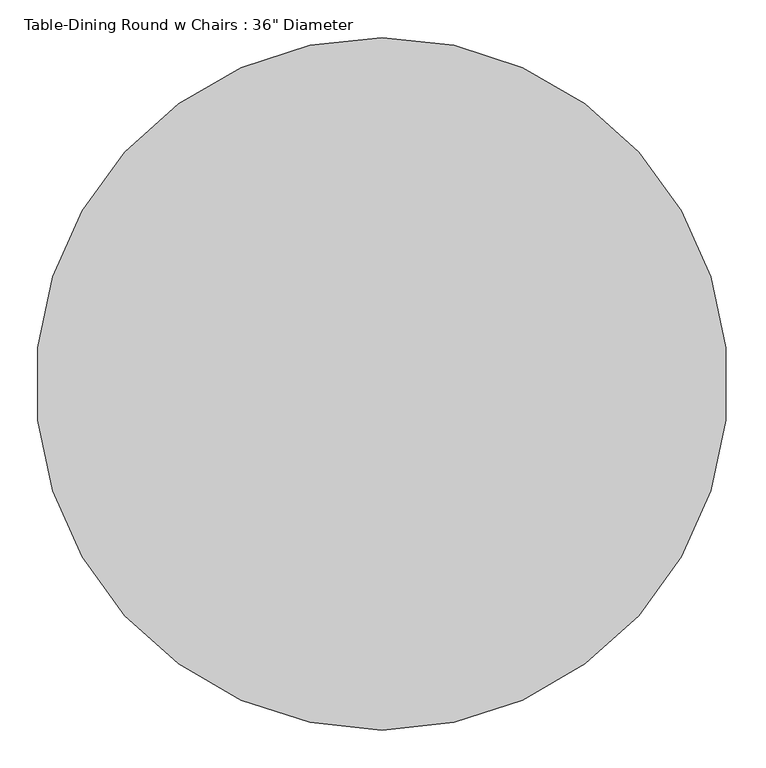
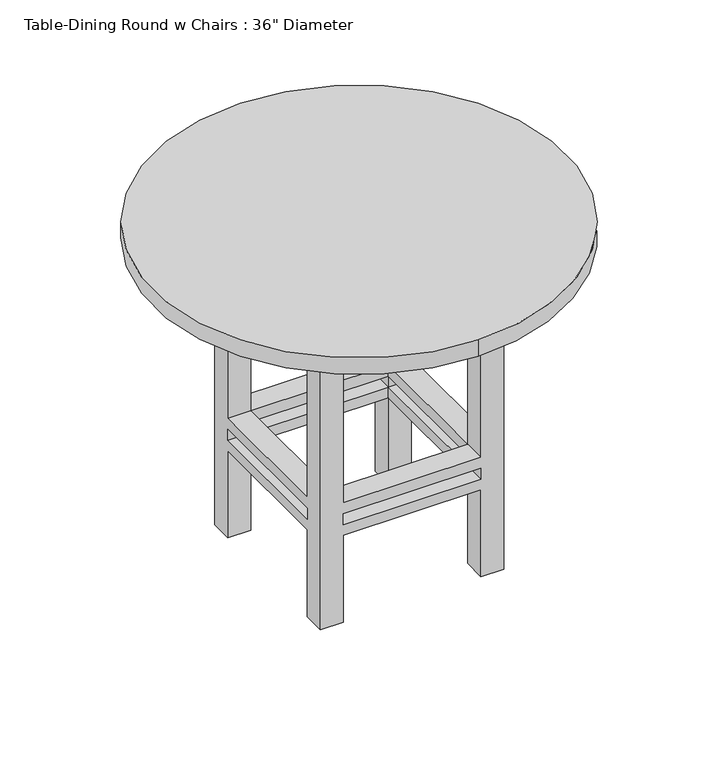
"""IFC4 building model written with IfcOpenShell, lengths in millimetres: furniture geometry."""

from ifc_helpers import new_model, si_unit, point, frame, frame_2d, origin, place, context, project, spatial, polyline, circle_curve, trimmed, segment, composite_curve, outline, extrude, faceted_brep, source, transform, mapped, element, save


def furniture_f004630c(model_context):
    return source(origin(), model_context, "Body", "SolidModel", [
        faceted_brep([(256.0819672, -32.4786885, 279.4), (256.0819672, -337.2786885, 279.4), (306.8819672, -337.2786885, 279.4), (306.8819672, -32.4786885, 279.4), (-48.7180328, -337.2786885, 279.4), (-48.7180328, -388.0786885, 279.4), (256.0819672, -388.0786885, 279.4), (-48.7180328, -32.4786885, 279.4), (-99.5180328, -32.4786885, 279.4), (-99.5180328, -337.2786885, 279.4), (256.0819672, 18.3213115, 279.4), (-48.7180328, 18.3213115, 279.4), (256.0819672, -32.4786885, 254.0), (-48.7180328, -32.4786885, 254.0), (-48.7180328, 18.3213115, 254.0), (256.0819672, 18.3213115, 254.0), (-48.7180328, -337.2786885, 254.0), (-99.5180328, -337.2786885, 254.0), (-99.5180328, -32.4786885, 254.0), (256.0819672, -337.2786885, 254.0), (256.0819672, -388.0786885, 254.0), (-48.7180328, -388.0786885, 254.0), (306.8819672, -32.4786885, 254.0), (306.8819672, -337.2786885, 254.0), (-99.5180328, 18.3213115, 647.7), (-48.7180328, 18.3213115, 647.7), (256.0819672, 18.3213115, 647.7), (306.8819672, 18.3213115, 647.7), (306.8819672, 18.3213115, 0.0), (256.0819672, 18.3213115, 0.0), (256.0819672, 18.3213115, 203.2), (-48.7180328, 18.3213115, 203.2), (-48.7180328, 18.3213115, 0.0), (-99.5180328, 18.3213115, 0.0), (-48.7180328, 18.3213115, 228.6), (256.0819672, 18.3213115, 228.6), (-99.5180328, -32.4786885, 647.7), (-99.5180328, -32.4786885, 0.0), (-99.5180328, -32.4786885, 203.2), (-99.5180328, -337.2786885, 203.2), (-99.5180328, -337.2786885, 0.0), (-99.5180328, -388.0786885, 0.0), (-99.5180328, -388.0786885, 647.7), (-99.5180328, -337.2786885, 647.7), (-99.5180328, -337.2786885, 228.6), (-99.5180328, -32.4786885, 228.6), (306.8819672, -388.0786885, 647.7), (256.0819672, -388.0786885, 647.7), (-48.7180328, -388.0786885, 647.7), (-48.7180328, -388.0786885, 0.0), (-48.7180328, -388.0786885, 203.2), (256.0819672, -388.0786885, 203.2), (256.0819672, -388.0786885, 0.0), (306.8819672, -388.0786885, 0.0), (256.0819672, -388.0786885, 228.6), (-48.7180328, -388.0786885, 228.6), (306.8819672, -32.4786885, 647.7), (306.8819672, -337.2786885, 647.7), (306.8819672, -337.2786885, 0.0), (306.8819672, -337.2786885, 203.2), (306.8819672, -32.4786885, 203.2), (306.8819672, -32.4786885, 0.0), (306.8819672, -32.4786885, 228.6), (306.8819672, -337.2786885, 228.6), (-48.7180328, -32.4786885, 647.7), (256.0819672, -32.4786885, 647.7), (256.0819672, -337.2786885, 647.7), (-48.7180328, -337.2786885, 647.7), (-48.7180328, -32.4786885, 0.0), (256.0819672, -32.4786885, 0.0), (256.0819672, -337.2786885, 0.0), (-48.7180328, -337.2786885, 0.0), (-48.7180328, -32.4786885, 203.2), (-48.7180328, -32.4786885, 228.6), (256.0819672, -32.4786885, 203.2), (256.0819672, -32.4786885, 228.6), (256.0819672, -337.2786885, 203.2), (256.0819672, -337.2786885, 228.6), (-48.7180328, -337.2786885, 203.2), (-48.7180328, -337.2786885, 228.6)], [[[0, 1, 2, 3]], [[1, 4, 5, 6]], [[4, 7, 8, 9]], [[7, 0, 10, 11]], [[12, 13, 14, 15]], [[13, 16, 17, 18]], [[16, 19, 20, 21]], [[19, 12, 22, 23]], [[24, 25, 11, 10, 26, 27, 28, 29, 30, 31, 32, 33], [14, 34, 35, 15]], [[36, 24, 33, 37, 38, 39, 40, 41, 42, 43, 9, 8], [17, 44, 45, 18]], [[46, 47, 6, 5, 48, 42, 41, 49, 50, 51, 52, 53], [20, 54, 55, 21]], [[28, 27, 56, 3, 2, 57, 46, 53, 58, 59, 60, 61], [22, 62, 63, 23]], [[1, 0, 12, 19]], [[4, 1, 19, 16]], [[7, 4, 16, 13]], [[0, 7, 13, 12]], [[25, 24, 36, 64]], [[26, 65, 56, 27]], [[47, 46, 57, 66]], [[48, 67, 43, 42]], [[32, 68, 37, 33]], [[29, 28, 61, 69]], [[52, 70, 58, 53]], [[49, 41, 40, 71]], [[64, 36, 8, 7]], [[37, 68, 72, 38]], [[13, 18, 45, 73]], [[25, 64, 7, 11]], [[68, 32, 31, 72]], [[14, 13, 73, 34]], [[65, 26, 10, 0]], [[29, 69, 74, 30]], [[12, 15, 35, 75]], [[56, 65, 0, 3]], [[69, 61, 60, 74]], [[22, 12, 75, 62]], [[66, 57, 2, 1]], [[58, 70, 76, 59]], [[19, 23, 63, 77]], [[47, 66, 1, 6]], [[70, 52, 51, 76]], [[20, 19, 77, 54]], [[67, 48, 5, 4]], [[49, 71, 78, 50]], [[16, 21, 55, 79]], [[43, 67, 4, 9]], [[71, 40, 39, 78]], [[17, 16, 79, 44]], [[75, 77, 63, 62]], [[77, 79, 55, 54]], [[79, 73, 45, 44]], [[73, 75, 35, 34]], [[74, 72, 31, 30]], [[72, 78, 39, 38]], [[78, 76, 51, 50]], [[76, 74, 60, 59]], [[77, 75, 74, 76]], [[79, 77, 76, 78]], [[73, 79, 78, 72]], [[75, 73, 72, 74]]]),
        extrude(outline(polyline([(332.2819672, 43.7213115), (332.2819672, -413.4786885), (-124.9180328, -413.4786885), (-124.9180328, 43.7213115), (332.2819672, 43.7213115)]), holes=[polyline([(306.8819672, 18.3213115), (-99.5180328, 18.3213115), (-99.5180328, -388.0786885), (306.8819672, -388.0786885), (306.8819672, 18.3213115)])]), frame((0.0, 0.0, 647.7), z_axis=(0.0, 0.0, 1.0), x_axis=(1.0, 0.0, 0.0)), (0.0, 0.0, 1.0), 76.2),
        extrude(outline(composite_curve([segment(trimmed(circle_curve(frame_2d((103.6819672, -184.8786885)), 457.2), [point((103.6819672, -642.0786885))], [point((103.6819672, 272.3213115))], False, "CARTESIAN"), True, "CONTINUOUS"), segment(trimmed(circle_curve(frame_2d((103.6819672, -184.8786885)), 457.2), [point((103.6819672, 272.3213115))], [point((103.6819672, -642.0786885))], False, "CARTESIAN"), True, "CONTINUOUS")], self_intersect=False)), frame((0.0, 0.0, 723.9), z_axis=(0.0, 0.0, 1.0), x_axis=(1.0, 0.0, 0.0)), (0.0, 0.0, 1.0), 38.1),
    ])


if __name__ == "__main__":
    model = new_model("IFC4")
    model_context = context("Model", 3, world=origin())
    ifc_project = project(units=[si_unit("LENGTHUNIT", "METRE", prefix="MILLI")], contexts=[model_context])
    site = spatial("IfcSite", under=ifc_project)
    building = spatial("IfcBuilding", under=site)
    placement = place(None, origin())
    furniture_shape = furniture_f004630c(model_context)
    element("IfcFurniture", 1, ObjectType="Table-Dining Round w Chairs : 36\" Diameter", at=placement, inside=building, context=model_context, shape_type="MappedRepresentation", body=[
        mapped(furniture_shape, transform((0.0, 0.0, 0.0), x_axis=(1.0, 0.0, 0.0), y_axis=(0.0, 1.0, 0.0), z_axis=(0.0, 0.0, 1.0))),
    ])
    save(model, "model.ifc")
